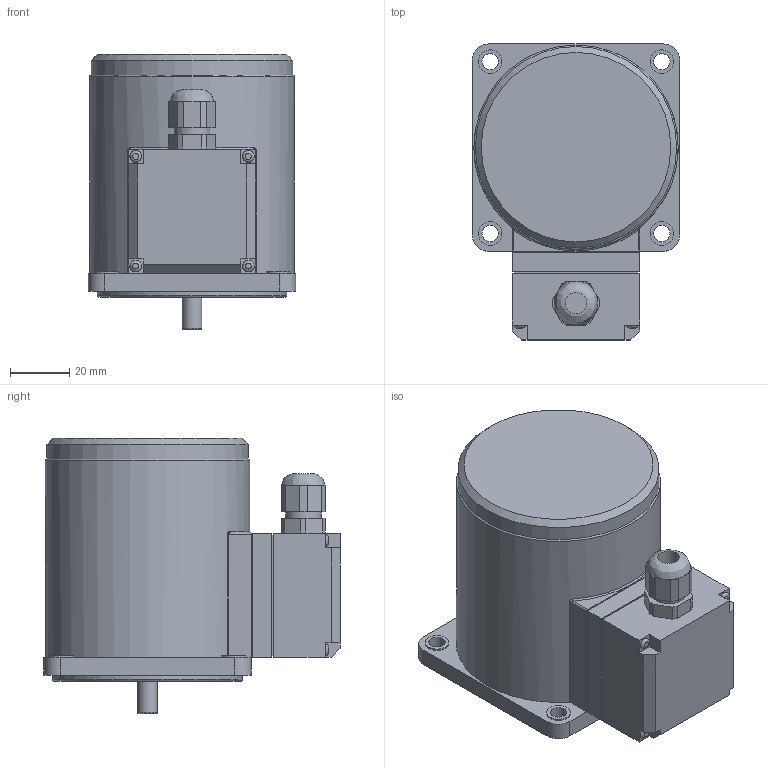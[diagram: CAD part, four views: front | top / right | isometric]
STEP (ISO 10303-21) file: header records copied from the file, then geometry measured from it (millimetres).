
FILE_DESCRIPTION((''),'2;1');
FILE_NAME('E:\2공장-도면\3D\표준형 3D(민규)\step file\K7IG15Nㅁ-T.stp','2014-11-12T17:41:08',('AHN'),(''),'Autodesk Inventor 2012','Autodesk Inventor 2012','');
FILE_SCHEMA(('CONFIG_CONTROL_DESIGN'));
Length unit declared in the file: millimetre
Products named in the file (4): K7IG15Nㅁ-T; K7IG15Nㅁ; TERMINAL BOX; 케이블1
Assembly tree (3 placements, depth 2):
  K7IG15Nㅁ-T
    K7IG15Nㅁ
    TERMINAL BOX
    케이블1
Bounding box: 70 x 100 x 93 mm (x, y, z)
Volume: 359824.1 mm3; surface area: 40862.9 mm2
Topology: 3 solids, 3 shells, 157 faces, 385 edges, 251 vertices
Faces by surface type: plane 93, cylinder 49, bspline 7, torus 5, cone 3
Full cylindrical faces by diameter (mm): 5.5 x4, 6.7 x1, 7.2 x1, 7.5 x1, 8 x4, 12 x2, 26 x1, 64 x1, 68 x1, 69 x1
Entity records: 4964 total; most frequent: CARTESIAN_POINT 1201, DIRECTION 780, ORIENTED_EDGE 700, EDGE_CURVE 350, AXIS2_PLACEMENT_3D 277, VERTEX_POINT 245, VECTOR 226, LINE 226
